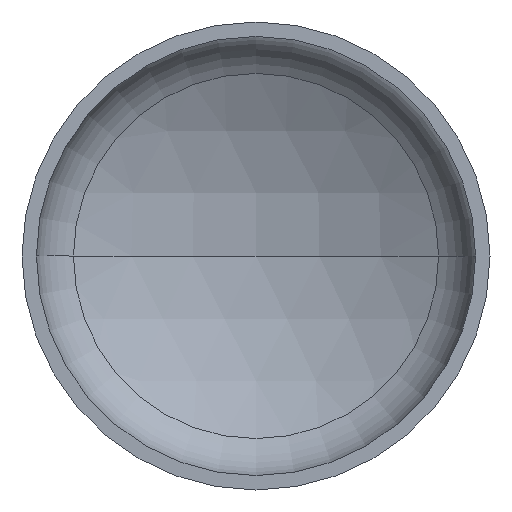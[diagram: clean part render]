
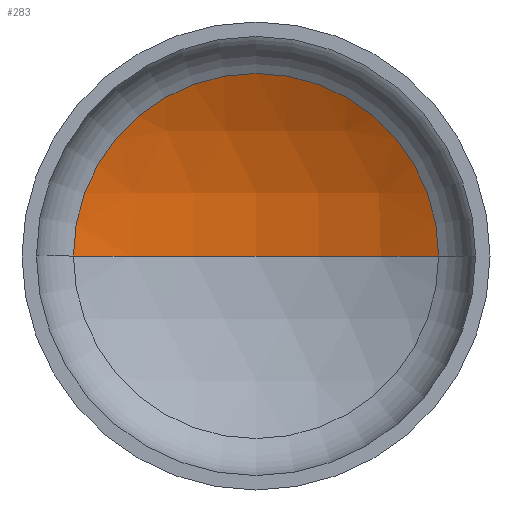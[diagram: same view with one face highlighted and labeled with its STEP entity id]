
A CAD part, front view. The second image highlights one B-rep face of the part: STEP entity #283.
In plain terms, the highlighted spherical face has radius 960 mm.
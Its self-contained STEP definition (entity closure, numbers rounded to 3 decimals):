
#11 = ORIENTED_EDGE ( 'NONE', *, *, #210, .T. ) ;
#18 = AXIS2_PLACEMENT_3D ( 'NONE', #118, #276, #77 ) ;
#24 = AXIS2_PLACEMENT_3D ( 'NONE', #310, #81, #289 ) ;
#27 = AXIS2_PLACEMENT_3D ( 'NONE', #232, #394, #329 ) ;
#28 = AXIS2_PLACEMENT_3D ( 'NONE', #391, #260, #408 ) ;
#77 = DIRECTION ( 'NONE',  ( -1., 0., 0. ) ) ;
#81 = DIRECTION ( 'NONE',  ( 0., 0., 1. ) ) ;
#108 = VERTEX_POINT ( 'NONE', #368 ) ;
#118 = CARTESIAN_POINT ( 'NONE',  ( 0., -556.566, 0. ) ) ;
#120 = CARTESIAN_POINT ( 'NONE',  ( 0., 403.434, 0. ) ) ;
#139 = EDGE_LOOP ( 'NONE', ( #204, #11, #196 ) ) ;
#154 = VERTEX_POINT ( 'NONE', #120 ) ;
#184 = EDGE_CURVE ( 'NONE', #239, #108, #306, .T. ) ;
#196 = ORIENTED_EDGE ( 'NONE', *, *, #184, .T. ) ;
#204 = ORIENTED_EDGE ( 'NONE', *, *, #236, .F. ) ;
#210 = EDGE_CURVE ( 'NONE', #154, #239, #409, .T. ) ;
#226 = FACE_OUTER_BOUND ( 'NONE', #139, .T. ) ;
#232 = CARTESIAN_POINT ( 'NONE',  ( 0., -556.566, 0. ) ) ;
#236 = EDGE_CURVE ( 'NONE', #154, #108, #249, .T. ) ;
#239 = VERTEX_POINT ( 'NONE', #271 ) ;
#249 = CIRCLE ( 'NONE', #24, 960. ) ;
#260 = DIRECTION ( 'NONE',  ( 0., -1., 0. ) ) ;
#271 = CARTESIAN_POINT ( 'NONE',  ( 468.232, 281.503, 0. ) ) ;
#276 = DIRECTION ( 'NONE',  ( 0., 0., -1. ) ) ;
#283 = ADVANCED_FACE ( 'NONE', ( #226 ), #292, .F. ) ;
#289 = DIRECTION ( 'NONE',  ( 1., 0., 0. ) ) ;
#292 = SPHERICAL_SURFACE ( 'NONE', #18, 960. ) ;
#306 = CIRCLE ( 'NONE', #28, 468.232 ) ;
#310 = CARTESIAN_POINT ( 'NONE',  ( 0., -556.566, 0. ) ) ;
#329 = DIRECTION ( 'NONE',  ( -1., 0., 0. ) ) ;
#368 = CARTESIAN_POINT ( 'NONE',  ( -468.232, 281.503, 0. ) ) ;
#391 = CARTESIAN_POINT ( 'NONE',  ( 0., 281.503, 0. ) ) ;
#394 = DIRECTION ( 'NONE',  ( 0., 0., -1. ) ) ;
#408 = DIRECTION ( 'NONE',  ( 1., 0., 0. ) ) ;
#409 = CIRCLE ( 'NONE', #27, 960. ) ;
